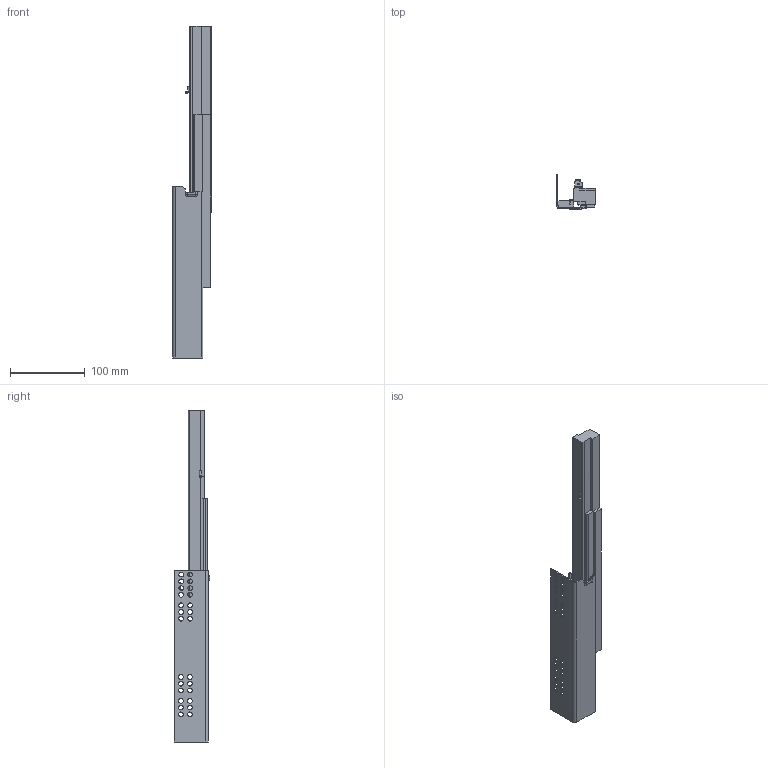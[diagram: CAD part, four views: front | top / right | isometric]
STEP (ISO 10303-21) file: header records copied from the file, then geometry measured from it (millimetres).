
FILE_DESCRIPTION (( 'STEP AP203' ), '1' );
FILE_NAME ('TS10270H-L-DTC3D-open.STEP', '2021-07-09T02:57:12', ( 'df' ), ( 'Microsoft' ), 'SwSTEP 2.0', 'SolidWorks 2018', '' );
FILE_SCHEMA (( 'CONFIG_CONTROL_DESIGN' ));
Length unit declared in the file: millimetre
Products named in the file (1): TS10270H-L-DTC3D-open
Bounding box: 51.73 x 48 x 444.3 mm (x, y, z)
Volume: 256535.3 mm3; surface area: 76919.5 mm2
Topology: 1 solids, 1 shells, 311 faces, 871 edges, 569 vertices
Faces by surface type: plane 129, cylinder 115, bspline 47, torus 16, sphere 4
Entity records: 11795 total; most frequent: CARTESIAN_POINT 3752, ORIENTED_EDGE 1734, DIRECTION 1546, EDGE_CURVE 867, VERTEX_POINT 569, AXIS2_PLACEMENT_3D 527, VECTOR 492, LINE 492
